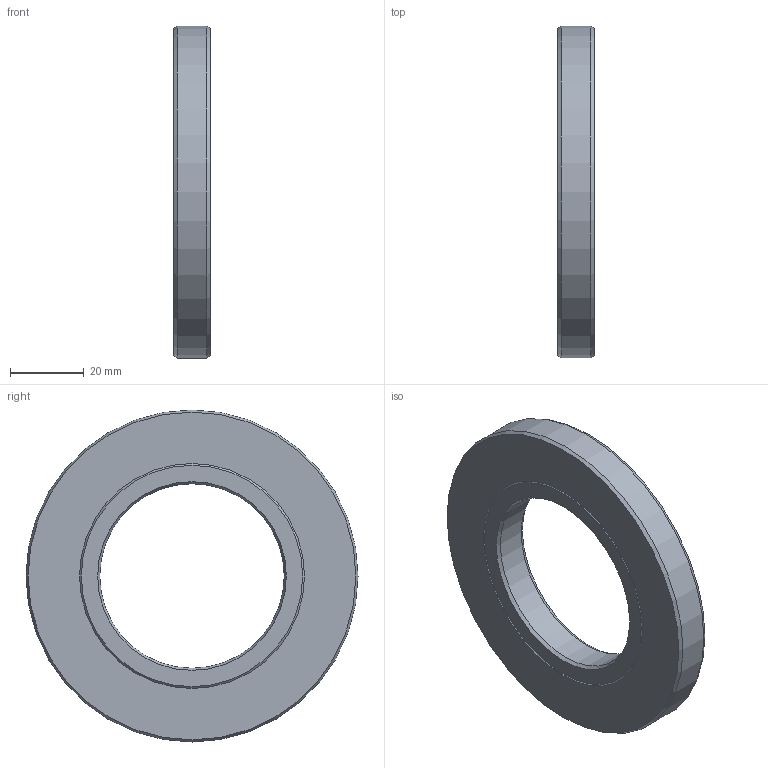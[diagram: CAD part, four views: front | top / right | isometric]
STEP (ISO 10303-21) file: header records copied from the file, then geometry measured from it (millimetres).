
FILE_DESCRIPTION(/* description */ (''),/* implementation_level */ '2;1');
FILE_NAME(/* name */ '301876 SA 50x90x10.stp',/* time_stamp */ '2016-12-16T15:16:14+01:00',/* author */ (''),/* organization */ (''),/* preprocessor_version */ 'ST-DEVELOPER v15',/* originating_system */ 'SIEMENS PLM Software NX 8.5',/* authorisation */ '');
FILE_SCHEMA (('CONFIG_CONTROL_DESIGN'));
Length unit declared in the file: millimetre
Products named in the file (1): ATE0000144_01
Bounding box: 10 x 90 x 90 mm (x, y, z)
Volume: 42555.9 mm3; surface area: 18135 mm2
Topology: 2 solids, 2 shells, 18 faces, 37 edges, 23 vertices
Faces by surface type: cone 10, plane 5, cylinder 3
Full cylindrical faces by diameter (mm): 50 x1, 90 x1
Entity records: 492 total; most frequent: DIRECTION 76, CARTESIAN_POINT 74, ORIENTED_EDGE 46, AXIS2_PLACEMENT_3D 38, EDGE_LOOP 33, FACE_BOUND 30, EDGE_CURVE 23, VERTEX_POINT 20
